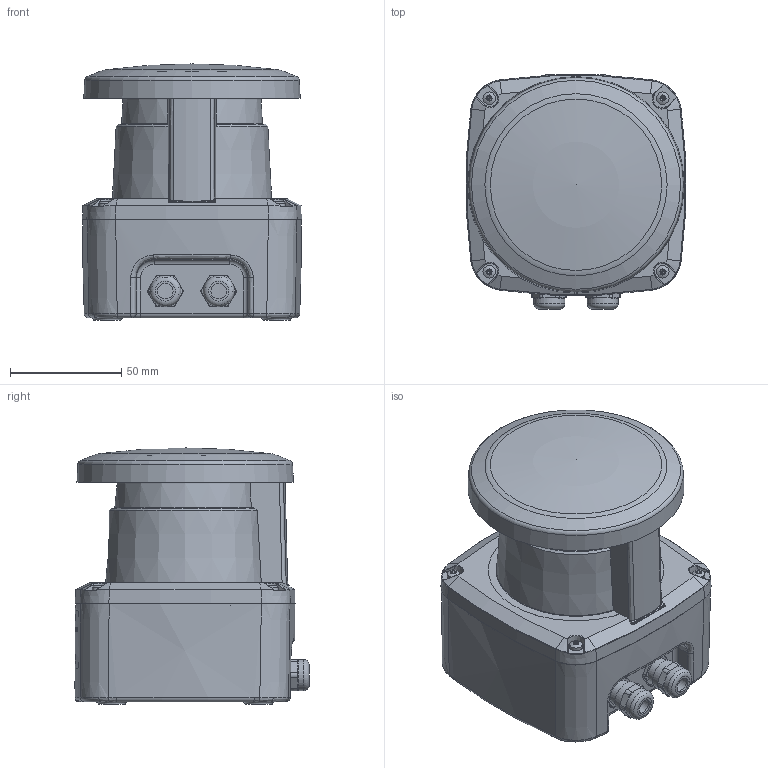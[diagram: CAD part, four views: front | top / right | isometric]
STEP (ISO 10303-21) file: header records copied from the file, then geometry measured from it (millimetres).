
FILE_DESCRIPTION(/* description */ (''),/* implementation_level */ '2;1');
FILE_NAME(/* name */ 'KLM-AP_27_RZ.stp',/* time_stamp */ '2025-05-16T14:24:43+08:00',/* author */ (''),/* organization */ (''),/* preprocessor_version */ 'ST-DEVELOPER v16',/* originating_system */ 'SIEMENS PLM Software NX 10.0',/* authorisation */ '');
FILE_SCHEMA (('AP203_CONFIGURATION_CONTROLLED_3D_DESIGN_OF_MECHANICAL_PARTS_AND_ASSEMBLIES_MIM_LF { 1 0 10303 403 2 1 2}'));
Length unit declared in the file: millimetre
Products named in the file (1): JSB-4A600B92byt9
Bounding box: 98.64 x 105.28 x 115.07 mm (x, y, z)
Volume: 184958.2 mm3; surface area: 152897.1 mm2
Topology: 20 solids, 20 shells, 2367 faces, 5831 edges, 3523 vertices
Faces by surface type: plane 774, bspline 505, cone 407, cylinder 366, torus 187, extrusion 81, sphere 47
Full cylindrical faces by diameter (mm): 1.25 x3, 1.3 x1, 1.5 x1, 1.7 x1, 2.5 x8, 2.72 x4, 2.874 x4, 4.02 x2, 4.2 x4, 5.6 x4, 7 x4, 10 x4, 10.5 x2, 12 x4, 14 x4, 19 x1, 21 x1
Entity records: 131614 total; most frequent: CARTESIAN_POINT 76814, ORIENTED_EDGE 10926, DIRECTION 8898, EDGE_CURVE 5463, VERTEX_POINT 3446, AXIS2_PLACEMENT_3D 3431, EDGE_LOOP 2707, ADVANCED_FACE 2365
